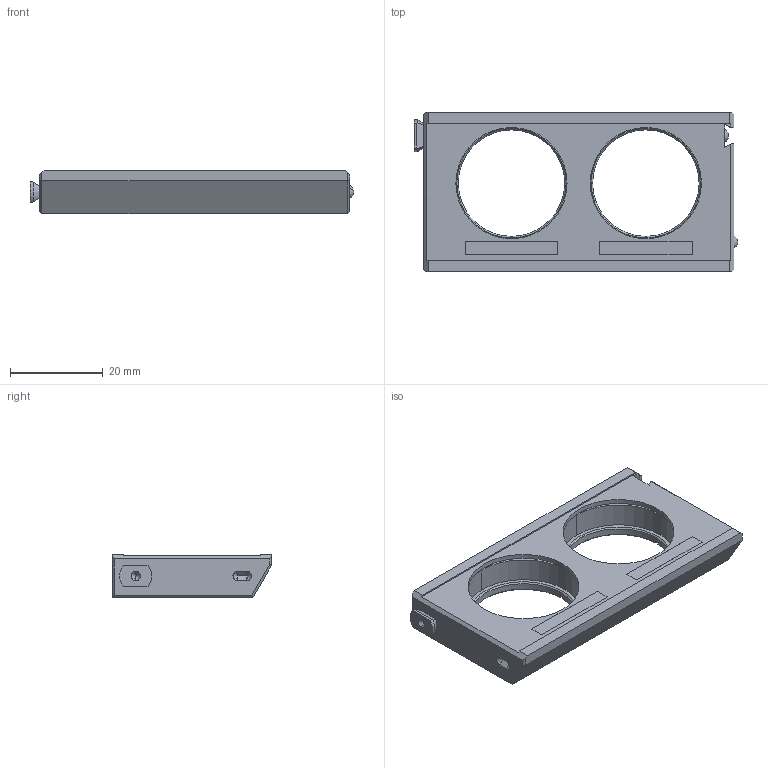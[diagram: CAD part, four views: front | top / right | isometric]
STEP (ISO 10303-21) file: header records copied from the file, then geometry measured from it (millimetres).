
FILE_DESCRIPTION (( 'STEP AP203' ), '1' );
FILE_NAME ('CSM1-SF-IS.STEP', '2023-11-24T04:54:45', ( '' ), ( '' ), 'SwSTEP 2.0', 'SolidWorks 2021', '' );
FILE_SCHEMA (( 'CONFIG_CONTROL_DESIGN' ));
Length unit declared in the file: millimetre
Products named in the file (1): CSM1-SF-IS
Bounding box: 69.85 x 34.5 x 9.4 mm (x, y, z)
Surface area: 7208 mm2 (no closed solid volume)
Topology: 0 solids, 12 shells, 191 faces, 1075 edges, 881 vertices
Faces by surface type: plane 112, cone 34, cylinder 32, bspline 9, sphere 4
Entity records: 12279 total; most frequent: CARTESIAN_POINT 4535, ORIENTED_EDGE 1436, DIRECTION 1349, EDGE_CURVE 1055, VERTEX_POINT 875, VECTOR 731, LINE 731, AXIS2_PLACEMENT_3D 309
